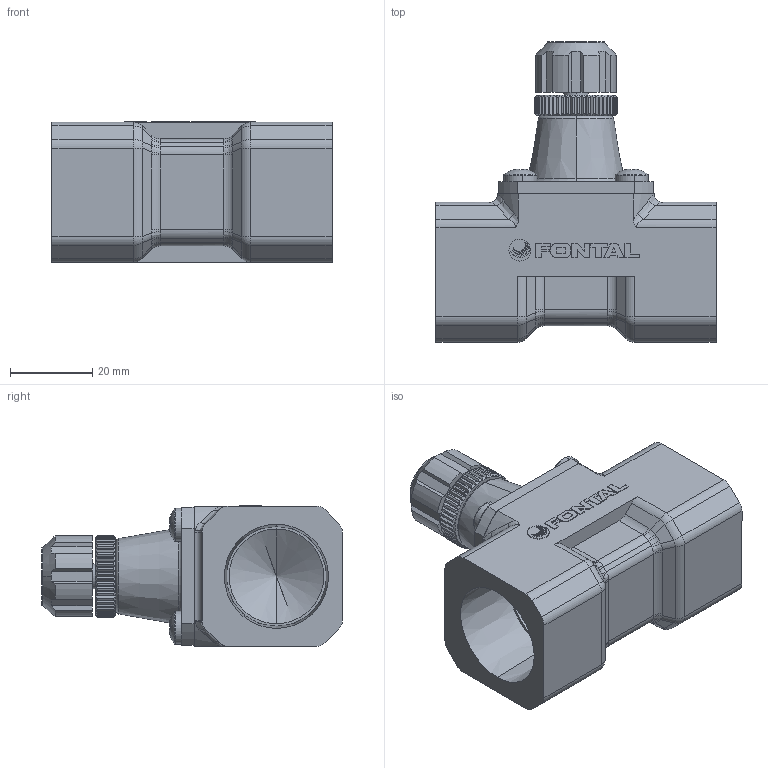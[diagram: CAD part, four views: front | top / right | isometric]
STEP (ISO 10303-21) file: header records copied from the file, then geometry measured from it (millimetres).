
FILE_DESCRIPTION (( 'STEP AP203' ), '1' );
FILE_NAME ('SP-15-6.STEP', '2016-01-14T20:20:41', ( '' ), ( '' ), 'SwSTEP 2.0', 'SolidWorks 2014', '' );
FILE_SCHEMA (( 'CONFIG_CONTROL_DESIGN' ));
Length unit declared in the file: millimetre
Products named in the file (8): ISO 7045 - M4 x 10 - Z; SP-15-1-4; SPE-10-4; ZH-15-MARK; SP-15-6; SPE-10-3; SP-06-6; SP-15-2
Assembly tree (10 placements, depth 2):
  SP-15-6
    SP-15-2
    ISO 7045 - M4 x 10 - Z  x4
    SPE-10-3
    SPE-10-4
    SP-06-6
    ZH-15-MARK
    SP-15-1-4
Bounding box: 68 x 73 x 34.15 mm (x, y, z)
Volume: 63330.2 mm3; surface area: 22404.7 mm2
Topology: 16 solids, 16 shells, 695 faces, 1654 edges, 984 vertices
Faces by surface type: plane 312, cylinder 167, cone 132, bspline 44, torus 24, sphere 16
Entity records: 18514 total; most frequent: CARTESIAN_POINT 4565, ORIENTED_EDGE 2784, DIRECTION 2660, EDGE_CURVE 1392, AXIS2_PLACEMENT_3D 1032, VERTEX_POINT 831, EDGE_LOOP 615, LINE 596
